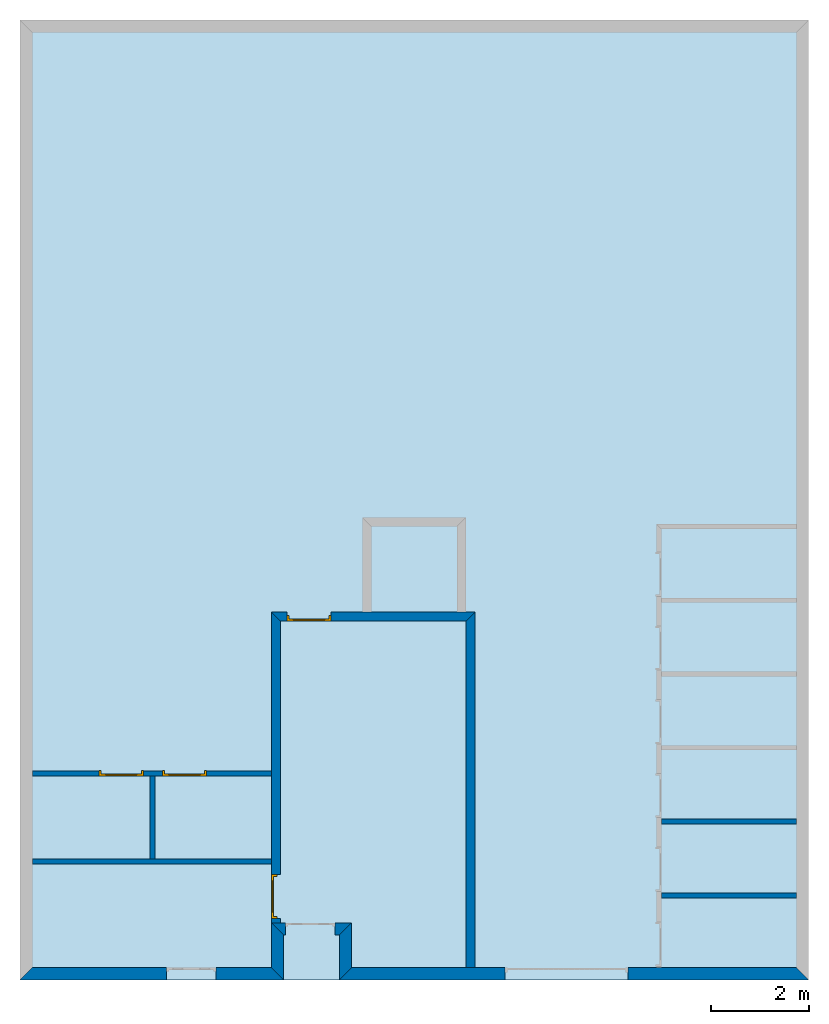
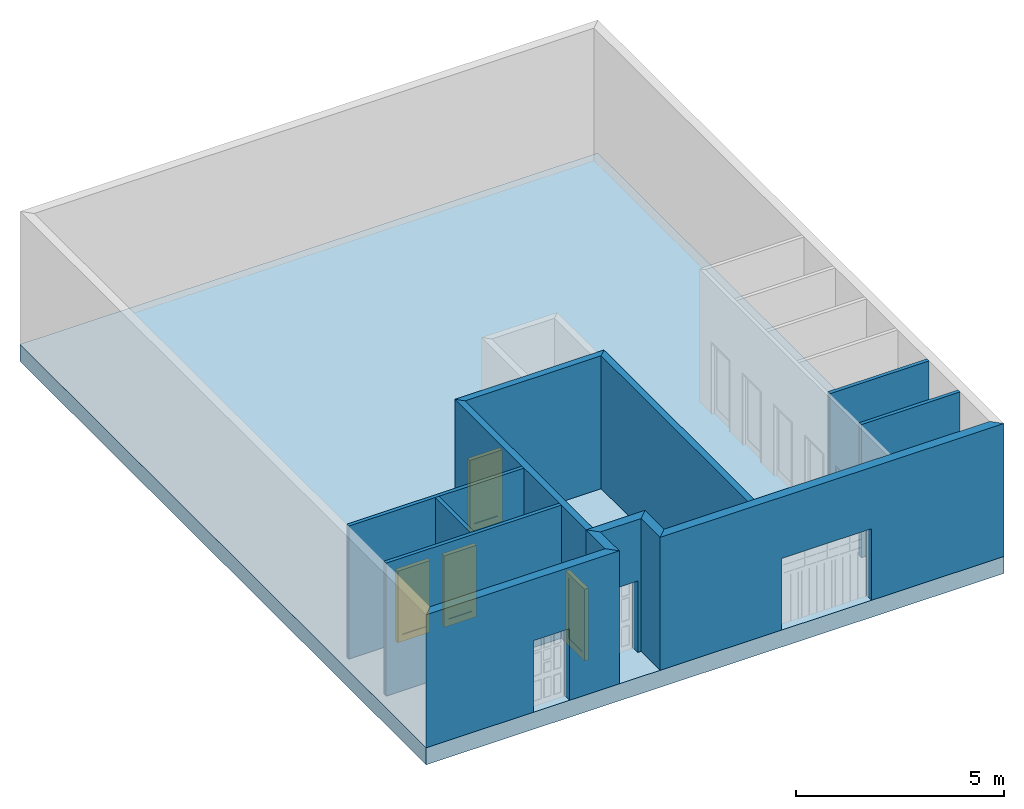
# One storey, part 1 of 5: 13 walls, 4 doors, 1 slab, 7 openings.
"""IFC2X3 building model written with IfcOpenShell, lengths in metres."""

import ifcopenshell
import ifcopenshell.guid

model = None  # the IFC model being written
_history = None  # IfcOwnerHistory: only IFC2X3 demands one
_inside = {}  # id of a spatial element -> (the spatial element, [elements in it])
_under = {}  # id of a project, library or spatial element -> (it, [spatial elements below it])
_declared = {}  # id of a project -> (the project, [libraries it declares])
_typed = {}  # id of a type object -> (the type object, [elements of that type])
_made_of = {}  # id of a material, layer set ... -> (it, [elements and type objects made of it])


def new_model(schema):
    """Start an empty IFC model of exactly this schema.

    Asked for "IFC4X3", IfcOpenShell would pick the latest addendum, in which some entities
    have other attributes; the version numbers below select the first issue.
    IFC2X3 requires an IfcOwnerHistory on every rooted entity: one is made here for all.
    """
    global model, _history
    if schema == "IFC4X3":
        model = ifcopenshell.file(schema_version=(4, 3, 0, 0))
    else:
        model = ifcopenshell.file(schema=schema)
    _inside.clear()
    _under.clear()
    _declared.clear()
    _typed.clear()
    _made_of.clear()
    _history = None
    if model.schema == "IFC2X3":
        org = make("IfcOrganization", Name="unknown")
        user = make(
            "IfcPersonAndOrganization",
            ThePerson=make("IfcPerson", FamilyName="unknown"),
            TheOrganization=org,
        )
        app = make(
            "IfcApplication",
            ApplicationDeveloper=org,
            Version="unknown",
            ApplicationFullName="unknown",
            ApplicationIdentifier="unknown",
        )
        _history = make(
            "IfcOwnerHistory",
            OwningUser=user,
            OwningApplication=app,
            ChangeAction="ADDED",
            CreationDate=0,
        )
    return model


def make(cls, **values):
    """One entity of the class cls with the attributes given. An attribute that is None is left unset."""
    return model.create_entity(
        cls, **{name: value for name, value in values.items() if value is not None}
    )


def entity(cls, *values):
    """Any entity or typed value of the class cls, its attributes in the order of the schema. None: left unset."""
    e = model.create_entity(cls)
    for i, value in enumerate(values):
        if value is not None:
            e[i] = value
    return e


def rooted(cls, **values):
    """An entity with a GlobalId (a new one), such as an element, a storey or a relation."""
    return make(cls, GlobalId=ifcopenshell.guid.new(), OwnerHistory=_history, **values)


def si_unit(unit_type, name, prefix=None):
    """IfcSIUnit, for example si_unit("LENGTHUNIT", "METRE", prefix="MILLI")."""
    return make("IfcSIUnit", UnitType=unit_type, Prefix=prefix, Name=name)


def converted_unit(unit_type, name, factor, base, dimensions=None, offset=None):
    """IfcConversionBasedUnit, such as the inch: factor (a typed value) times the base unit."""
    return make(
        "IfcConversionBasedUnit"
        if offset is None
        else "IfcConversionBasedUnitWithOffset",
        ConversionOffset=offset,
        Dimensions=None
        if dimensions is None
        else entity("IfcDimensionalExponents", *dimensions),
        UnitType=unit_type,
        Name=name,
        ConversionFactor=make(
            "IfcMeasureWithUnit", ValueComponent=factor, UnitComponent=base
        ),
    )


def assignment(units):
    """IfcUnitAssignment: the units of a project."""
    return None if units is None else make("IfcUnitAssignment", Units=units)


def point(xyz):
    """IfcCartesianPoint."""
    return None if xyz is None else make("IfcCartesianPoint", Coordinates=xyz)


def direction(xyz):
    """IfcDirection."""
    return None if xyz is None else make("IfcDirection", DirectionRatios=xyz)


def frame(location, z_axis=None, x_axis=None):
    """IfcAxis2Placement3D, a coordinate frame: its origin and axes. An axis left out is left unset."""
    return make(
        "IfcAxis2Placement3D",
        Location=point(location),
        Axis=direction(z_axis),
        RefDirection=direction(x_axis),
    )


def frame_2d(location, x_axis=None):
    """IfcAxis2Placement2D, a coordinate frame in the plane: its origin and x axis."""
    return make(
        "IfcAxis2Placement2D", Location=point(location), RefDirection=direction(x_axis)
    )


def origin_with_axes():
    """The frame at (0, 0, 0) with the z axis (0, 0, 1) and the x axis (1, 0, 0) written out."""
    return frame((0.0, 0.0, 0.0), z_axis=(0.0, 0.0, 1.0), x_axis=(1.0, 0.0, 0.0))


def place(relative_to, where):
    """IfcLocalPlacement: puts the frame where relative to a parent placement (None: the world)."""
    return make(
        "IfcLocalPlacement", PlacementRelTo=relative_to, RelativePlacement=where
    )


def context(
    kind, dimensions, precision=None, world=None, true_north=None, identifier=None
):
    """IfcGeometricRepresentationContext, for example the 3D "Model" context."""
    return make(
        "IfcGeometricRepresentationContext",
        ContextIdentifier=identifier,
        ContextType=kind,
        CoordinateSpaceDimension=dimensions,
        Precision=precision,
        WorldCoordinateSystem=world,
        TrueNorth=true_north,
    )


def project(units=None, contexts=None):
    """IfcProject with its units and contexts."""
    return rooted(
        "IfcProject",
        Name="project",
        RepresentationContexts=contexts,
        UnitsInContext=assignment(units),
    )


def spatial(cls, under=None, at=None, **own):
    """A site, building, storey or space (cls), placed at a placement, below another one or the project."""
    s = rooted(cls, ObjectPlacement=at, **own)
    if under is not None:
        _under.setdefault(under.id(), (under, []))[1].append(s)
    return s


def polyline(points):
    """IfcPolyline through the points."""
    return make("IfcPolyline", Points=[point(p) for p in points])


def profile(cls, at=None, kind="AREA", **sizes):
    """A parametric profile (cls). Its sizes go by their IFC names, for example OverallWidth=200.0."""
    return make(cls, ProfileType=kind, Position=at, **sizes)


def rectangle(**sizes):
    """IfcRectangleProfileDef."""
    return profile("IfcRectangleProfileDef", **sizes)


def outline(outer, holes=None, kind="AREA"):
    """IfcArbitraryClosedProfileDef: a profile drawn as a closed curve; with holes, ...WithVoids."""
    if holes is None:
        return make("IfcArbitraryClosedProfileDef", ProfileType=kind, OuterCurve=outer)
    return make(
        "IfcArbitraryProfileDefWithVoids",
        ProfileType=kind,
        OuterCurve=outer,
        InnerCurves=holes,
    )


def extrude(swept, where, along, depth):
    """IfcExtrudedAreaSolid: the profile swept, set in the frame where, extruded along a direction by depth."""
    return make(
        "IfcExtrudedAreaSolid",
        SweptArea=swept,
        Position=where,
        ExtrudedDirection=direction(along),
        Depth=depth,
    )


def faces_of(points, faces, orient=None, outer=None):
    """IfcFace entities. A face is a list of loops; a loop is a list of indices into points, from 0.

    orient and outer hold one flag for each loop. By default every Orientation is true, the
    first loop of a face is its IfcFaceOuterBound and the others are IfcFaceBound.
    """
    made = []
    for i, loops in enumerate(faces):
        bounds = []
        for j, loop in enumerate(loops):
            is_outer = j == 0 if outer is None else outer[i][j]
            bounds.append(
                make(
                    "IfcFaceOuterBound" if is_outer else "IfcFaceBound",
                    Bound=make("IfcPolyLoop", Polygon=[points[k] for k in loop]),
                    Orientation=True if orient is None else orient[i][j],
                )
            )
        made.append(make("IfcFace", Bounds=bounds))
    return made


def faceted_brep(points, faces, orient=None, outer=None, voids=None):
    """IfcFacetedBrep: a solid bounded by flat faces; with voids (closed shells), ...WithVoids."""
    shared = [point(p) for p in points]
    hull = make("IfcClosedShell", CfsFaces=faces_of(shared, faces, orient, outer))
    if voids is None:
        return make("IfcFacetedBrep", Outer=hull)
    return make(
        "IfcFacetedBrepWithVoids",
        Outer=hull,
        Voids=[
            make(cls, CfsFaces=faces_of(shared, fs, o, b)) for cls, fs, o, b in voids
        ],
    )


def shape(context_of_items, identifier, shape_type, items):
    """IfcShapeRepresentation: the items that make up one representation, for example the "Body"."""
    return make(
        "IfcShapeRepresentation",
        ContextOfItems=context_of_items,
        RepresentationIdentifier=identifier,
        RepresentationType=shape_type,
        Items=items,
    )


def source(mapping_origin, context_of_items, identifier, shape_type, items):
    """IfcRepresentationMap: a shape defined once, which mapped items show again and again."""
    return make(
        "IfcRepresentationMap",
        MappingOrigin=mapping_origin,
        MappedRepresentation=shape(context_of_items, identifier, shape_type, items),
    )


def transform(
    local_origin,
    x_axis=None,
    y_axis=None,
    z_axis=None,
    scale=None,
    scale2=None,
    scale3=None,
    uniform=True,
):
    """IfcCartesianTransformationOperator3D, or its non-uniform kind. x_axis, y_axis, z_axis: its Axis1, 2, 3."""
    if uniform:
        return make(
            "IfcCartesianTransformationOperator3D",
            Axis1=direction(x_axis),
            Axis2=direction(y_axis),
            LocalOrigin=point(local_origin),
            Scale=scale,
            Axis3=direction(z_axis),
        )
    return make(
        "IfcCartesianTransformationOperator3DnonUniform",
        Axis1=direction(x_axis),
        Axis2=direction(y_axis),
        LocalOrigin=point(local_origin),
        Scale=scale,
        Axis3=direction(z_axis),
        Scale2=scale2,
        Scale3=scale3,
    )


def mapped(mapping_source, mapping_target):
    """IfcMappedItem: shows the shape of a source again, moved by a transform."""
    return make(
        "IfcMappedItem", MappingSource=mapping_source, MappingTarget=mapping_target
    )


def material(Name=None, Category=None):
    """IfcMaterial."""
    return make("IfcMaterial", Name=Name, Category=Category)


def layer(
    of_material, thickness, ventilated=None, Name=None, Category=None, Priority=None
):
    """IfcMaterialLayer: one layer of a wall or slab, of a material (None: an air gap)."""
    return make(
        "IfcMaterialLayer",
        Material=of_material,
        LayerThickness=thickness,
        IsVentilated=ventilated,
        Name=Name,
        Category=Category,
        Priority=Priority,
    )


def layer_set(layers, Name=None):
    """IfcMaterialLayerSet."""
    return make("IfcMaterialLayerSet", MaterialLayers=layers, LayerSetName=Name)


def layer_usage(for_layer_set, set_direction, sense, offset, extent=None):
    """IfcMaterialLayerSetUsage: how a layer set lies in its element."""
    return make(
        "IfcMaterialLayerSetUsage",
        ForLayerSet=for_layer_set,
        LayerSetDirection=set_direction,
        DirectionSense=sense,
        OffsetFromReferenceLine=offset,
        ReferenceExtent=extent,
    )


def made_of(thing, what):
    """Note that an element or type object is made of a material, layer set ...; save() writes the relation."""
    if what is not None:
        _made_of.setdefault(what.id(), (what, []))[1].append(thing)
    return thing


def type_object(cls, material=None, **own):
    """A type object (cls), such as IfcWallType, which elements share."""
    return made_of(rooted(cls, **own), material)


def element(
    cls,
    number,
    at=None,
    inside=None,
    cuts=None,
    type_object=None,
    material=None,
    context=None,
    identifier="Body",
    shape_type=None,
    held_by="IfcProductDefinitionShape",
    body=None,
    shapes=None,
    **own,
):
    """One element of the class cls, such as IfcWall. Its Tag is "e" and its number.

    at: its placement. inside: the storey or other place that contains it. cuts: it is an
    opening in that element (IfcRelVoidsElement). A single representation is given by context,
    identifier, shape_type and body (its items); several are given by shapes. held_by: the class
    of the entity that holds the representations. save() writes the other relations.
    """
    e = rooted(cls, Tag="e%d" % number, ObjectPlacement=at, **own)
    if body is not None:
        shapes = [shape(context, identifier, shape_type, body)]
    if shapes is not None:
        e.Representation = make(held_by, Representations=shapes)
    if inside is not None:
        _inside.setdefault(inside.id(), (inside, []))[1].append(e)
    if cuts is not None:
        rooted(
            "IfcRelVoidsElement", RelatingBuildingElement=cuts, RelatedOpeningElement=e
        )
    if type_object is not None:
        _typed.setdefault(type_object.id(), (type_object, []))[1].append(e)
    return made_of(e, material)


def fill(opening, filler):
    """IfcRelFillsElement: the door or window that sits in an opening."""
    return rooted(
        "IfcRelFillsElement",
        RelatingOpeningElement=opening,
        RelatedBuildingElement=filler,
    )


def aggregate(whole, parts):
    """IfcRelAggregates: a whole, such as a stair, and the parts it consists of."""
    return rooted("IfcRelAggregates", RelatingObject=whole, RelatedObjects=parts)


def save(model, path):
    """Write the relations noted so far, then the file.

    IfcRelAggregates (storeys below a building ...), IfcRelContainedInSpatialStructure (elements
    in a storey), IfcRelDefinesByType, IfcRelAssociatesMaterial and IfcRelDeclares: one each for
    every whole, place, type object, material and project.
    """
    for whole, parts in _under.values():
        aggregate(whole, parts)
    for where, things in _inside.values():
        rooted(
            "IfcRelContainedInSpatialStructure",
            RelatedElements=things,
            RelatingStructure=where,
        )
    for kind, things in _typed.values():
        rooted("IfcRelDefinesByType", RelatedObjects=things, RelatingType=kind)
    for what, things in _made_of.values():
        rooted("IfcRelAssociatesMaterial", RelatedObjects=things, RelatingMaterial=what)
    for by, libraries in _declared.values():
        rooted("IfcRelDeclares", RelatingContext=by, RelatedDefinitions=libraries)
    model.write(path)


model = new_model("IFC2X3")

# Units and contexts
context_of_model = context(None, 3, precision=1e-05, world=origin_with_axes(), true_north=direction((6.123234e-17, 1.0)))
plan_context = context("Plan", 3, precision=1e-05, world=origin_with_axes(), true_north=direction((6.123234e-17, 1.0)))
model_context = context("Model", 3, precision=1e-05, world=origin_with_axes(), true_north=direction((6.123234e-17, 1.0)))
ifc_project = project(units=[si_unit("LENGTHUNIT", "METRE"), si_unit("AREAUNIT", "SQUARE_METRE"), si_unit("VOLUMEUNIT", "CUBIC_METRE"), converted_unit("PLANEANGLEUNIT", "DEGREE", entity("IfcPlaneAngleMeasure", 0.017453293), si_unit("PLANEANGLEUNIT", "RADIAN"), dimensions=[0, 0, 0, 0, 0, 0, 0]), si_unit("SOLIDANGLEUNIT", "STERADIAN"), si_unit("MASSUNIT", "GRAM"), si_unit("TIMEUNIT", "SECOND"), si_unit("THERMODYNAMICTEMPERATUREUNIT", "DEGREE_CELSIUS"), si_unit("LUMINOUSINTENSITYUNIT", "LUMEN")], contexts=[context_of_model, plan_context, model_context])

# Site, building, storey
site_placement = place(None, origin_with_axes())
site = spatial("IfcSite", under=ifc_project, at=site_placement, Name="Por defecto Sitio", CompositionType="ELEMENT")
building_placement = place(site_placement, origin_with_axes())
building = spatial("IfcBuilding", under=site, at=building_placement, Name="Por defecto Edificio", CompositionType="ELEMENT")
storey_placement = place(building_placement, origin_with_axes())
storey = spatial("IfcBuildingStorey", under=building, at=storey_placement, Name="Planta Baja", CompositionType="ELEMENT", Elevation=0.0)

# Slab
ifc_material_1 = material(Name="Hormigón en masa")
ifc_layer_1 = layer(ifc_material_1, 0.5, ventilated="UNKNOWN")
ifc_layer_set_1 = layer_set([ifc_layer_1], Name="Hormigón en masa")
ifc_layer_usage_1 = layer_usage(ifc_layer_set_1, "AXIS3", "NEGATIVE", 0.5)
slab_placement = place(storey_placement, frame((0.0, 0.0, -0.5), z_axis=(0.0, 0.0, 1.0), x_axis=(1.0, 0.0, 0.0)))
element("IfcSlab", 1, at=slab_placement, inside=storey, material=ifc_layer_usage_1, Name="Forj-001", PredefinedType="FLOOR", context=context_of_model, shape_type="SweptSolid", body=[
    extrude(outline(polyline([(0.0, 0.0), (16.03417, 0.0), (16.03417, 19.52), (0.0, 19.52), (0.0, 0.0)])), origin_with_axes(), (0.0, 0.0, 1.0), 0.5),
])

# Wall, opening
ifc_material_2 = material(Name="Ladrillo común")
ifc_layer_2 = layer(ifc_material_2, 0.25, ventilated="UNKNOWN")
ifc_layer_set_2 = layer_set([ifc_layer_2], Name="Ladrillo común")
ifc_layer_usage_2 = layer_usage(ifc_layer_set_2, "AXIS2", "POSITIVE", 0.0)
wall_type_1 = type_object("IfcWallType", Name="Ladrillo común", PredefinedType="NOTDEFINED")
wall_1_placement = place(storey_placement, frame((5.3619878, 0.91290992, 0.0), z_axis=(0.0, 0.0, 1.0), x_axis=(1.0, 0.0, 0.0)))
wall_1 = element("IfcWallStandardCase", 2, at=wall_1_placement, inside=storey, type_object=wall_type_1, material=ifc_layer_usage_2, Name="Muro-006", context=context_of_model, shape_type="SweptSolid", body=[
    extrude(outline(polyline([(0.0, 0.0), (1.1322176, 0.0), (1.3822176, 0.25), (-0.25, 0.25), (0.0, 0.0)])), origin_with_axes(), (0.0, 0.0, 1.0), 3.9),
])
opening_1_placement = place(wall_1_placement, frame((0.54, 0.0, 0.0), z_axis=(0.0, 0.0, 1.0), x_axis=(1.0, 0.0, 0.0)))
element("IfcOpeningElement", 3, at=opening_1_placement, cuts=wall_1, ObjectType="Opening", context=model_context, shape_type="SweptSolid", body=[
    extrude(rectangle(XDim=1.0, YDim=2.1, at=frame_2d((0.0, 1.05), x_axis=(-1.0, 0.0))), frame((0.0, 0.0, 0.0), z_axis=(0.0, 1.0, 0.0), x_axis=(-1.0, 0.0, 0.0)), (0.0, 0.0, 1.0), 0.25),
])

# Wall
ifc_layer_usage_3 = layer_usage(ifc_layer_set_2, "AXIS2", "NEGATIVE", 0.0)
wall_2_placement = place(storey_placement, frame((6.4942054, 0.0, 0.0), z_axis=(0.0, 0.0, 1.0), x_axis=(0.0, 1.0, 0.0)))
element("IfcWallStandardCase", 4, at=wall_2_placement, inside=storey, type_object=wall_type_1, material=ifc_layer_usage_3, Name="Muro-008", context=context_of_model, shape_type="SweptSolid", body=[
    extrude(outline(polyline([(0.25, -0.25), (1.1629099, -0.25), (0.91290992, 0.0), (0.0, 0.0), (0.25, -0.25)])), origin_with_axes(), (0.0, 0.0, 1.0), 3.9),
])

# Wall, opening
ifc_layer_usage_4 = layer_usage(ifc_layer_set_2, "AXIS2", "NEGATIVE", 0.0)
wall_3_placement = place(storey_placement, frame((5.3619878, 0.0, 0.0), z_axis=(0.0, 0.0, 1.0), x_axis=(-1.0, 0.0, 0.0)))
wall_3 = element("IfcWallStandardCase", 5, at=wall_3_placement, inside=storey, type_object=wall_type_1, material=ifc_layer_usage_4, Name="Muro-010", context=context_of_model, shape_type="SweptSolid", body=[
    extrude(outline(polyline([(0.25, -0.25), (5.1119878, -0.25), (5.3619878, 0.0), (0.0, 0.0), (0.25, -0.25)])), origin_with_axes(), (0.0, 0.0, 1.0), 3.9),
])
opening_2_placement = place(wall_3_placement, frame((1.8805093, -0.25, 0.0), z_axis=(0.0, 0.0, 1.0), x_axis=(1.0, 0.0, 0.0)))
element("IfcOpeningElement", 6, at=opening_2_placement, cuts=wall_3, ObjectType="Opening", context=model_context, shape_type="SweptSolid", body=[
    extrude(rectangle(XDim=1.0, YDim=2.1, at=frame_2d((0.0, 1.05), x_axis=(-1.0, 0.0))), frame((0.0, 0.0, 0.0), z_axis=(0.0, 1.0, 0.0), x_axis=(-1.0, 0.0, 0.0)), (0.0, 0.0, 1.0), 0.25),
])

ifc_layer_usage_5 = layer_usage(ifc_layer_set_2, "AXIS2", "NEGATIVE", 0.0)
wall_4_placement = place(storey_placement, frame((16.03417, -1.1368684e-13, 0.0), z_axis=(0.0, 0.0, 1.0), x_axis=(-1.0, 1.1916904e-14, 0.0)))
wall_4 = element("IfcWallStandardCase", 7, at=wall_4_placement, inside=storey, type_object=wall_type_1, material=ifc_layer_usage_5, Name="Muro-011", context=context_of_model, shape_type="SweptSolid", body=[
    extrude(outline(polyline([(0.25, -0.25), (9.2899644, -0.25), (9.5399644, 0.0), (0.0, 0.0), (0.25, -0.25)])), origin_with_axes(), (0.0, 0.0, 1.0), 3.9),
])
opening_3_placement = place(wall_4_placement, frame((4.9236983, -0.25, 0.0), z_axis=(0.0, 0.0, 1.0), x_axis=(1.0, 0.0, 0.0)))
element("IfcOpeningElement", 8, at=opening_3_placement, cuts=wall_4, ObjectType="Opening", context=model_context, shape_type="SweptSolid", body=[
    extrude(rectangle(XDim=2.5, YDim=2.1, at=frame_2d((0.0, 1.05), x_axis=(-1.0, 0.0))), frame((0.0, 0.0, 0.0), z_axis=(0.0, 1.0, 0.0), x_axis=(-1.0, 0.0, 0.0)), (0.0, 0.0, 1.0), 0.25),
])

# Wall
ifc_layer_usage_6 = layer_usage(ifc_layer_set_2, "AXIS2", "NEGATIVE", 0.0)
wall_5_placement = place(storey_placement, frame((5.3619878, 0.91290992, 0.0), z_axis=(0.0, 0.0, 1.0), x_axis=(0.0, -1.0, 0.0)))
element("IfcWallStandardCase", 9, at=wall_5_placement, inside=storey, type_object=wall_type_1, material=ifc_layer_usage_6, Name="Muro-008", context=context_of_model, shape_type="SweptSolid", body=[
    extrude(outline(polyline([(-0.25, -0.25), (0.66290992, -0.25), (0.91290992, 0.0), (0.0, 0.0), (-0.25, -0.25)])), origin_with_axes(), (0.0, 0.0, 1.0), 3.9),
])

# Wall, opening, door
ifc_layer_3 = layer(ifc_material_2, 0.18, ventilated="UNKNOWN")
ifc_layer_set_3 = layer_set([ifc_layer_3], Name="Ladrillo común")
ifc_layer_usage_7 = layer_usage(ifc_layer_set_3, "AXIS2", "NEGATIVE", 0.0)
wall_type_2 = type_object("IfcWallType", Name="Ladrillo común", PredefinedType="NOTDEFINED")
wall_6_placement = place(storey_placement, frame((5.292164, 7.2976562, 0.0), z_axis=(0.0, 0.0, 1.0), x_axis=(-1.5636061e-14, -1.0, 0.0)))
wall_6 = element("IfcWallStandardCase", 10, at=wall_6_placement, inside=storey, type_object=wall_type_2, material=ifc_layer_usage_7, Name="Muro-009", context=context_of_model, shape_type="SweptSolid", body=[
    extrude(outline(polyline([(-0.18, -0.18), (6.1347463, -0.18), (6.1347463, 0.0), (0.0, 0.0), (-0.18, -0.18)])), origin_with_axes(), (0.0, 0.0, 1.0), 3.9),
])
opening_4_placement = place(wall_6_placement, frame((5.6014999, -0.18, 0.0), z_axis=(0.0, 0.0, 1.0), x_axis=(1.0, 0.0, 0.0)))
opening_4 = element("IfcOpeningElement", 11, at=opening_4_placement, cuts=wall_6, ObjectType="Opening", context=model_context, shape_type="SweptSolid", body=[
    extrude(rectangle(XDim=0.9, YDim=2.1, at=frame_2d((2.7755576e-15, 1.05), x_axis=(-1.0, 0.0))), frame((0.0, 0.0, 0.0), z_axis=(0.0, 1.0, 0.0), x_axis=(-1.0, 0.0, 0.0)), (0.0, 0.0, 1.0), 0.18),
])
door_style_1 = type_object("IfcDoorStyle", Name="P1 12", ConstructionType="NOTDEFINED", OperationType="SINGLE_SWING_RIGHT", ParameterTakesPrecedence=False, Sizeable=False)
shared_shape_1 = source(origin_with_axes(), model_context, "Body", "Brep", [
    faceted_brep([(0.04, 0.075, -2.4492936e-18), (0.04, 0.075, 2.06), (0.04, -9.3258734e-14, 2.06), (0.04, -9.3258734e-14, -7.0417191e-18), (0.028, 0.075, 2.06), (0.028, 0.075, -2.4492936e-18), (0.028, 0.115, 2.06), (2.220446e-16, 0.115, 2.06), (1.7763568e-15, -9.4146912e-14, 2.06), (0.0, 0.0, 0.0), (2.220446e-16, 0.115, 3.3744595e-33), (0.028, 0.115, 3.2707143e-33)], [[[0, 1, 2, 3]], [[4, 1, 0, 5]], [[4, 6, 7, 8, 2, 1]], [[9, 3, 2, 8]], [[5, 0, 3, 9, 10, 11]], [[6, 4, 5, 11]], [[6, 11, 10, 7]], [[8, 7, 10, 9]]]),
    faceted_brep([(0.872, 0.075, 2.06), (0.86, 0.075, 2.06), (0.86, -8.0824236e-14, 2.06), (0.9, -7.9936058e-14, 2.06), (0.9, 0.115, 2.06), (0.872, 0.115, 2.06), (0.872, 0.075, -2.4492936e-18), (0.86, 0.075, -2.4492936e-18), (0.86, -8.0824236e-14, -7.0417191e-18), (0.9, -7.9936058e-14, -7.0417191e-18), (0.9, 0.115, -3.3744595e-33), (0.872, 0.115, -3.1644931e-33)], [[[0, 1, 2, 3, 4, 5]], [[1, 0, 6, 7]], [[1, 7, 8, 2]], [[8, 9, 3, 2]], [[9, 10, 4, 3]], [[11, 5, 4, 10]], [[0, 5, 11, 6]], [[6, 11, 10, 9, 8, 7]]]),
    faceted_brep([(0.028, 0.115, 2.072), (0.028, 0.115, 2.06), (2.220446e-16, 0.115, 2.06), (2.220446e-16, 0.115, 2.1), (0.9, 0.115, 2.1), (0.9, 0.115, 2.06), (0.872, 0.115, 2.06), (0.872, 0.115, 2.072), (0.028, 0.075, 2.072), (0.028, 0.075, 2.06), (0.04, 0.075, 2.06), (0.04, -9.3258734e-14, 2.06), (1.7763568e-15, -9.4146912e-14, 2.06), (1.7763568e-15, -9.4146912e-14, 2.1), (0.9, -7.9936058e-14, 2.1), (0.9, -7.9936058e-14, 2.06), (0.872, 0.075, 2.06), (0.86, -8.0824236e-14, 2.06), (0.86, 0.075, 2.06), (0.872, 0.075, 2.072)], [[[0, 1, 2, 3, 4, 5, 6, 7]], [[1, 0, 8, 9]], [[9, 10, 11, 12, 2, 1]], [[13, 3, 2, 12]], [[14, 4, 3, 13]], [[15, 5, 4, 14]], [[16, 6, 5, 15, 17, 18]], [[7, 6, 16, 19]], [[0, 7, 19, 8]], [[16, 18, 10, 9, 8, 19]], [[10, 18, 17, 11]], [[14, 13, 12, 11, 17, 15]]]),
    faceted_brep([(0.872, 0.115, 0.2), (0.872, 0.075, 0.2), (0.772, 0.075, 0.2), (0.772, 0.115, 0.2), (0.872, 0.115, 1.972), (0.872, 0.075, 1.972), (0.772, 0.075, 1.972), (0.772, 0.115, 1.972)], [[[0, 1, 2, 3]], [[4, 5, 1, 0]], [[1, 5, 6, 2]], [[3, 2, 6, 7]], [[0, 3, 7, 4]], [[7, 6, 5, 4]]]),
    faceted_brep([(0.028, 0.115, 0.2), (0.028, 0.075, 0.2), (0.028, 0.075, 1.972), (0.028, 0.115, 1.972), (0.128, 0.115, 0.2), (0.128, 0.075, 0.2), (0.128, 0.075, 1.972), (0.128, 0.115, 1.972)], [[[0, 1, 2, 3]], [[4, 5, 1, 0]], [[1, 5, 6, 2]], [[3, 2, 6, 7]], [[0, 3, 7, 4]], [[7, 6, 5, 4]]]),
    faceted_brep([(0.872, 0.115, -3.1644931e-33), (0.872, 0.075, -2.4492936e-18), (0.028, 0.075, -2.4492936e-18), (0.028, 0.115, 3.1644931e-33), (0.872, 0.115, 0.2), (0.872, 0.075, 0.2), (0.772, 0.075, 0.2), (0.128, 0.075, 0.2), (0.028, 0.075, 0.2), (0.028, 0.115, 0.2), (0.128, 0.115, 0.2), (0.772, 0.115, 0.2)], [[[0, 1, 2, 3]], [[4, 5, 1, 0]], [[1, 5, 6, 7, 8, 2]], [[3, 2, 8, 9]], [[0, 3, 9, 10, 11, 4]], [[11, 6, 5, 4]], [[10, 7, 6, 11]], [[9, 8, 7, 10]]]),
    faceted_brep([(0.872, 0.115, 2.072), (0.872, 0.075, 2.072), (0.872, 0.075, 1.972), (0.872, 0.115, 1.972), (0.028, 0.115, 2.072), (0.028, 0.075, 2.072), (0.028, 0.075, 1.972), (0.128, 0.075, 1.972), (0.772, 0.075, 1.972), (0.772, 0.115, 1.972), (0.128, 0.115, 1.972), (0.028, 0.115, 1.972)], [[[0, 1, 2, 3]], [[4, 5, 1, 0]], [[1, 5, 6, 7, 8, 2]], [[3, 2, 8, 9]], [[0, 3, 9, 10, 11, 4]], [[11, 6, 5, 4]], [[10, 7, 6, 11]], [[9, 8, 7, 10]]]),
    faceted_brep([(0.772, 0.101, 0.2), (0.772, 0.089, 0.2), (0.128, 0.089, 0.2), (0.128, 0.101, 0.2), (0.772, 0.101, 1.972), (0.772, 0.089, 1.972), (0.128, 0.089, 1.972), (0.128, 0.101, 1.972)], [[[0, 1, 2, 3]], [[4, 5, 1, 0]], [[1, 5, 6, 2]], [[3, 2, 6, 7]], [[0, 3, 7, 4]], [[7, 6, 5, 4]]]),
])
door_1_placement = place(opening_4_placement, frame((0.45, 0.115, 0.0), z_axis=(0.0, 0.0, 1.0), x_axis=(-1.0, 0.0, 0.0)))
door_1 = element("IfcDoor", 12, at=door_1_placement, inside=storey, type_object=door_style_1, Name="P05", OverallHeight=2.1, OverallWidth=0.9, context=model_context, shape_type="MappedRepresentation", body=[
    mapped(shared_shape_1, transform((0.0, 0.0, 0.0), scale=1.0)),
])
fill(opening_4, door_1)

ifc_layer_usage_8 = layer_usage(ifc_layer_set_3, "AXIS2", "POSITIVE", 0.0)
wall_7_placement = place(storey_placement, frame((5.292164, 7.2976562, 0.0), z_axis=(0.0, 0.0, 1.0), x_axis=(1.0, 0.0, 0.0)))
wall_7 = element("IfcWallStandardCase", 13, at=wall_7_placement, inside=storey, type_object=wall_type_2, material=ifc_layer_usage_8, Name="Muro-009", context=context_of_model, shape_type="SweptSolid", body=[
    extrude(outline(polyline([(0.0, 0.0), (3.7770059, 0.0), (3.9570059, 0.18), (-0.18, 0.18), (0.0, 0.0)])), origin_with_axes(), (0.0, 0.0, 1.0), 3.9),
])
opening_5_placement = place(wall_7_placement, frame((0.58278804, 0.0, 0.0), z_axis=(0.0, 0.0, 1.0), x_axis=(1.0, 0.0, 0.0)))
opening_5 = element("IfcOpeningElement", 14, at=opening_5_placement, cuts=wall_7, ObjectType="Opening", context=model_context, shape_type="SweptSolid", body=[
    extrude(rectangle(XDim=0.9, YDim=2.1, at=frame_2d((7.1054274e-15, 1.05), x_axis=(-1.0, 0.0))), frame((0.0, 0.0, 0.0), z_axis=(0.0, 1.0, 0.0), x_axis=(-1.0, 0.0, 0.0)), (0.0, 0.0, 1.0), 0.18),
])
door_style_2 = type_object("IfcDoorStyle", Name="P1 12", ConstructionType="NOTDEFINED", OperationType="SINGLE_SWING_RIGHT", ParameterTakesPrecedence=False, Sizeable=False)
shared_shape_2 = source(origin_with_axes(), model_context, "Body", "Brep", [
    faceted_brep([(0.04, 0.075, -2.4492936e-18), (0.04, 0.075, 2.06), (0.04, 0.0, 2.06), (0.04, 0.0, -7.0417191e-18), (0.028, 0.075, 2.06), (0.028, 0.075, -2.4492936e-18), (0.028, 0.115, 2.06), (0.0, 0.115, 2.06), (0.0, 0.0, 2.06), (0.0, 0.0, 0.0), (0.0, 0.115, 3.3744595e-33), (0.028, 0.115, 3.2707143e-33)], [[[0, 1, 2, 3]], [[4, 1, 0, 5]], [[4, 6, 7, 8, 2, 1]], [[9, 3, 2, 8]], [[5, 0, 3, 9, 10, 11]], [[6, 4, 5, 11]], [[6, 11, 10, 7]], [[8, 7, 10, 9]]]),
    faceted_brep([(0.872, 0.075, 2.06), (0.86, 0.075, 2.06), (0.86, 0.0, 2.06), (0.9, 0.0, 2.06), (0.9, 0.115, 2.06), (0.872, 0.115, 2.06), (0.872, 0.075, -2.4492936e-18), (0.86, 0.075, -2.4492936e-18), (0.86, 0.0, -7.0417191e-18), (0.9, 0.0, -7.0417191e-18), (0.9, 0.115, -3.3744595e-33), (0.872, 0.115, -3.1644931e-33)], [[[0, 1, 2, 3, 4, 5]], [[1, 0, 6, 7]], [[1, 7, 8, 2]], [[8, 9, 3, 2]], [[9, 10, 4, 3]], [[11, 5, 4, 10]], [[0, 5, 11, 6]], [[6, 11, 10, 9, 8, 7]]]),
    faceted_brep([(0.028, 0.115, 2.072), (0.028, 0.115, 2.06), (0.0, 0.115, 2.06), (0.0, 0.115, 2.1), (0.9, 0.115, 2.1), (0.9, 0.115, 2.06), (0.872, 0.115, 2.06), (0.872, 0.115, 2.072), (0.028, 0.075, 2.072), (0.028, 0.075, 2.06), (0.04, 0.075, 2.06), (0.04, 0.0, 2.06), (0.0, 0.0, 2.06), (0.0, 0.0, 2.1), (0.9, 0.0, 2.1), (0.9, 0.0, 2.06), (0.872, 0.075, 2.06), (0.86, 0.0, 2.06), (0.86, 0.075, 2.06), (0.872, 0.075, 2.072)], [[[0, 1, 2, 3, 4, 5, 6, 7]], [[1, 0, 8, 9]], [[9, 10, 11, 12, 2, 1]], [[13, 3, 2, 12]], [[14, 4, 3, 13]], [[15, 5, 4, 14]], [[16, 6, 5, 15, 17, 18]], [[7, 6, 16, 19]], [[0, 7, 19, 8]], [[16, 18, 10, 9, 8, 19]], [[10, 18, 17, 11]], [[14, 13, 12, 11, 17, 15]]]),
    faceted_brep([(0.872, 0.115, 0.2), (0.872, 0.075, 0.2), (0.772, 0.075, 0.2), (0.772, 0.115, 0.2), (0.872, 0.115, 1.972), (0.872, 0.075, 1.972), (0.772, 0.075, 1.972), (0.772, 0.115, 1.972)], [[[0, 1, 2, 3]], [[4, 5, 1, 0]], [[1, 5, 6, 2]], [[3, 2, 6, 7]], [[0, 3, 7, 4]], [[7, 6, 5, 4]]]),
    faceted_brep([(0.028, 0.115, 0.2), (0.028, 0.075, 0.2), (0.028, 0.075, 1.972), (0.028, 0.115, 1.972), (0.128, 0.115, 0.2), (0.128, 0.075, 0.2), (0.128, 0.075, 1.972), (0.128, 0.115, 1.972)], [[[0, 1, 2, 3]], [[4, 5, 1, 0]], [[1, 5, 6, 2]], [[3, 2, 6, 7]], [[0, 3, 7, 4]], [[7, 6, 5, 4]]]),
    faceted_brep([(0.872, 0.115, -3.1644931e-33), (0.872, 0.075, -2.4492936e-18), (0.028, 0.075, -2.4492936e-18), (0.028, 0.115, 3.1644931e-33), (0.872, 0.115, 0.2), (0.872, 0.075, 0.2), (0.772, 0.075, 0.2), (0.128, 0.075, 0.2), (0.028, 0.075, 0.2), (0.028, 0.115, 0.2), (0.128, 0.115, 0.2), (0.772, 0.115, 0.2)], [[[0, 1, 2, 3]], [[4, 5, 1, 0]], [[1, 5, 6, 7, 8, 2]], [[3, 2, 8, 9]], [[0, 3, 9, 10, 11, 4]], [[11, 6, 5, 4]], [[10, 7, 6, 11]], [[9, 8, 7, 10]]]),
    faceted_brep([(0.872, 0.115, 2.072), (0.872, 0.075, 2.072), (0.872, 0.075, 1.972), (0.872, 0.115, 1.972), (0.028, 0.115, 2.072), (0.028, 0.075, 2.072), (0.028, 0.075, 1.972), (0.128, 0.075, 1.972), (0.772, 0.075, 1.972), (0.772, 0.115, 1.972), (0.128, 0.115, 1.972), (0.028, 0.115, 1.972)], [[[0, 1, 2, 3]], [[4, 5, 1, 0]], [[1, 5, 6, 7, 8, 2]], [[3, 2, 8, 9]], [[0, 3, 9, 10, 11, 4]], [[11, 6, 5, 4]], [[10, 7, 6, 11]], [[9, 8, 7, 10]]]),
    faceted_brep([(0.772, 0.101, 0.2), (0.772, 0.089, 0.2), (0.128, 0.089, 0.2), (0.128, 0.101, 0.2), (0.772, 0.101, 1.972), (0.772, 0.089, 1.972), (0.128, 0.089, 1.972), (0.128, 0.101, 1.972)], [[[0, 1, 2, 3]], [[4, 5, 1, 0]], [[1, 5, 6, 2]], [[3, 2, 6, 7]], [[0, 3, 7, 4]], [[7, 6, 5, 4]]]),
])
door_2_placement = place(opening_5_placement, frame((0.45, 0.115, 0.0), z_axis=(0.0, 0.0, 1.0), x_axis=(-1.0, 0.0, 0.0)))
door_2 = element("IfcDoor", 15, at=door_2_placement, inside=storey, type_object=door_style_2, Name="P08", OverallHeight=2.1, OverallWidth=0.9, context=model_context, shape_type="MappedRepresentation", body=[
    mapped(shared_shape_2, transform((0.0, 0.0, 0.0), scale=1.0)),
])
fill(opening_5, door_2)

# Walls
ifc_layer_usage_9 = layer_usage(ifc_layer_set_3, "AXIS2", "POSITIVE", 0.0)
wall_8_placement = place(storey_placement, frame((9.0691698, 7.2976562, 0.0), z_axis=(0.0, 0.0, 1.0), x_axis=(0.0, -1.0, 0.0)))
element("IfcWallStandardCase", 16, at=wall_8_placement, inside=storey, type_object=wall_type_2, material=ifc_layer_usage_9, Name="Muro-010", context=context_of_model, shape_type="SweptSolid", body=[
    extrude(outline(polyline([(0.0, 0.0), (7.0476562, 0.0), (7.0476562, 0.18), (-0.18, 0.18), (0.0, 0.0)])), origin_with_axes(), (0.0, 0.0, 1.0), 3.9),
])
ifc_layer_4 = layer(ifc_material_2, 0.1, ventilated="UNKNOWN")
ifc_layer_set_4 = layer_set([ifc_layer_4], Name="Ladrillo común")
ifc_layer_usage_10 = layer_usage(ifc_layer_set_4, "AXIS2", "POSITIVE", 0.0)
wall_type_3 = type_object("IfcWallType", Name="Ladrillo común", PredefinedType="NOTDEFINED")
wall_9_placement = place(storey_placement, frame((13.039317, 3.1720269, 0.0), z_axis=(0.0, 0.0, 1.0), x_axis=(1.0, 0.0, 0.0)))
element("IfcWallStandardCase", 17, at=wall_9_placement, inside=storey, type_object=wall_type_3, material=ifc_layer_usage_10, Name="Muro-021", context=context_of_model, shape_type="SweptSolid", body=[
    extrude(outline(polyline([(7.4606987e-14, 0.0), (2.7448525, 0.0), (2.7448525, 0.1), (7.283063e-14, 0.1), (7.4606987e-14, 0.0)])), origin_with_axes(), (0.0, 0.0, 1.0), 3.9),
])
ifc_layer_usage_11 = layer_usage(ifc_layer_set_4, "AXIS2", "NEGATIVE", 0.0)
wall_10_placement = place(storey_placement, frame((5.292164, 2.3553215, 0.0), z_axis=(0.0, 0.0, 1.0), x_axis=(-1.0, 0.0, 0.0)))
element("IfcWallStandardCase", 18, at=wall_10_placement, inside=storey, type_object=wall_type_3, material=ifc_layer_usage_11, Name="Muro-014", context=context_of_model, shape_type="SweptSolid", body=[
    extrude(outline(polyline([(0.18, -0.1), (5.042164, -0.1), (5.042164, 0.0), (0.18, 0.0), (0.18, -0.1)])), origin_with_axes(), (0.0, 0.0, 1.0), 3.9),
])
ifc_layer_usage_12 = layer_usage(ifc_layer_set_4, "AXIS2", "POSITIVE", 0.0)
wall_11_placement = place(storey_placement, frame((13.039317, 1.6720269, 0.0), z_axis=(0.0, 0.0, 1.0), x_axis=(1.0, 0.0, 0.0)))
element("IfcWallStandardCase", 19, at=wall_11_placement, inside=storey, type_object=wall_type_3, material=ifc_layer_usage_12, Name="Muro-020", context=context_of_model, shape_type="SweptSolid", body=[
    extrude(outline(polyline([(9.2370556e-14, 0.0), (2.7448525, 0.0), (2.7448525, 0.1), (9.2370556e-14, 0.1), (9.2370556e-14, 0.0)])), origin_with_axes(), (0.0, 0.0, 1.0), 3.9),
])

# Wall, openings, doors
ifc_layer_usage_13 = layer_usage(ifc_layer_set_4, "AXIS2", "NEGATIVE", 0.0)
wall_12_placement = place(storey_placement, frame((5.292164, 4.1469443, 0.0), z_axis=(0.0, 0.0, 1.0), x_axis=(-1.0, 0.0, 0.0)))
wall_12 = element("IfcWallStandardCase", 20, at=wall_12_placement, inside=storey, type_object=wall_type_3, material=ifc_layer_usage_13, Name="Muro-016", context=context_of_model, shape_type="SweptSolid", body=[
    extrude(outline(polyline([(0.18, -0.1), (5.042164, -0.1), (5.042164, 0.0), (0.18, 0.0), (0.18, -0.1)])), origin_with_axes(), (0.0, 0.0, 1.0), 3.9),
])
opening_6_placement = place(wall_12_placement, frame((1.9460768, -0.1, 0.0), z_axis=(0.0, 0.0, 1.0), x_axis=(1.0, 0.0, 0.0)))
opening_6 = element("IfcOpeningElement", 21, at=opening_6_placement, cuts=wall_12, ObjectType="Opening", context=model_context, shape_type="SweptSolid", body=[
    extrude(rectangle(XDim=0.9, YDim=2.1, at=frame_2d((0.0, 1.05), x_axis=(-1.0, 0.0))), frame((0.0, 0.0, 0.0), z_axis=(0.0, 1.0, 0.0), x_axis=(-1.0, 0.0, 0.0)), (0.0, 0.0, 1.0), 0.1),
])
opening_7_placement = place(wall_12_placement, frame((3.2358727, -0.1, 0.0), z_axis=(0.0, 0.0, 1.0), x_axis=(1.0, 0.0, 0.0)))
opening_7 = element("IfcOpeningElement", 22, at=opening_7_placement, cuts=wall_12, ObjectType="Opening", context=model_context, shape_type="SweptSolid", body=[
    extrude(rectangle(XDim=0.9, YDim=2.1, at=frame_2d((0.0, 1.05), x_axis=(-1.0, 0.0))), frame((0.0, 0.0, 0.0), z_axis=(0.0, 1.0, 0.0), x_axis=(-1.0, 0.0, 0.0)), (0.0, 0.0, 1.0), 0.1),
])
door_style_3 = type_object("IfcDoorStyle", Name="P1 12", ConstructionType="NOTDEFINED", OperationType="SINGLE_SWING_RIGHT", ParameterTakesPrecedence=False, Sizeable=False)
door_3_placement = place(opening_6_placement, frame((-0.45, -0.015, 0.0), z_axis=(0.0, 0.0, 1.0), x_axis=(1.0, 0.0, 0.0)))
door_3 = element("IfcDoor", 23, at=door_3_placement, inside=storey, type_object=door_style_3, Name="P06", OverallHeight=2.1, OverallWidth=0.9, context=model_context, shape_type="MappedRepresentation", body=[
    mapped(shared_shape_1, transform((0.0, 0.0, 0.0), scale=1.0)),
])
fill(opening_6, door_3)
door_style_4 = type_object("IfcDoorStyle", Name="P1 12", ConstructionType="NOTDEFINED", OperationType="SINGLE_SWING_LEFT", ParameterTakesPrecedence=False, Sizeable=False)
shared_shape_3 = source(origin_with_axes(), model_context, "Body", "Brep", [
    faceted_brep([(0.86, 0.075, -3.6739404e-18), (0.86, 0.0, 9.184851e-19), (0.86, 0.0, 2.06), (0.86, 0.075, 2.06), (0.872, 0.075, -3.6739404e-18), (0.872, 0.115, -6.123234e-18), (0.9, 0.115, -6.123234e-18), (0.9, 0.0, 9.184851e-19), (0.9, 0.0, 2.06), (0.872, 0.075, 2.06), (0.9, 0.115, 2.06), (0.872, 0.115, 2.06)], [[[0, 1, 2, 3]], [[4, 5, 6, 7, 1, 0]], [[7, 8, 2, 1]], [[9, 3, 2, 8, 10, 11]], [[9, 4, 0, 3]], [[11, 5, 4, 9]], [[11, 10, 6, 5]], [[8, 7, 6, 10]]]),
    faceted_brep([(0.028, 0.075, 2.06), (0.028, 0.115, 2.06), (0.0, 0.115, 2.06), (0.0, 0.0, 2.06), (0.04, 0.0, 2.06), (0.04, 0.075, 2.06), (0.028, 0.075, -3.6739404e-18), (0.028, 0.115, -6.123234e-18), (0.0, 0.115, -6.123234e-18), (0.0, 0.0, 0.0), (0.04, 0.0, 9.184851e-19), (0.04, 0.075, -3.6739404e-18)], [[[0, 1, 2, 3, 4, 5]], [[0, 6, 7, 1]], [[7, 8, 2, 1]], [[9, 3, 2, 8]], [[10, 4, 3, 9]], [[5, 4, 10, 11]], [[5, 11, 6, 0]], [[6, 11, 10, 9, 8, 7]]]),
    faceted_brep([(0.872, 0.115, 2.072), (0.028, 0.115, 2.072), (0.028, 0.115, 2.06), (0.0, 0.115, 2.06), (0.0, 0.115, 2.1), (0.9, 0.115, 2.1), (0.9, 0.115, 2.06), (0.872, 0.115, 2.06), (0.872, 0.075, 2.072), (0.028, 0.075, 2.072), (0.028, 0.075, 2.06), (0.04, 0.075, 2.06), (0.04, 0.0, 2.06), (0.0, 0.0, 2.06), (0.0, 0.0, 2.1), (0.9, 0.0, 2.1), (0.9, 0.0, 2.06), (0.872, 0.075, 2.06), (0.86, 0.0, 2.06), (0.86, 0.075, 2.06)], [[[0, 1, 2, 3, 4, 5, 6, 7]], [[0, 8, 9, 1]], [[1, 9, 10, 2]], [[10, 11, 12, 13, 3, 2]], [[13, 14, 4, 3]], [[14, 15, 5, 4]], [[15, 16, 6, 5]], [[17, 7, 6, 16, 18, 19]], [[7, 17, 8, 0]], [[10, 9, 8, 17, 19, 11]], [[19, 18, 12, 11]], [[14, 13, 12, 18, 16, 15]]]),
    faceted_brep([(0.028, 0.115, 0.2), (0.128, 0.115, 0.2), (0.128, 0.075, 0.2), (0.028, 0.075, 0.2), (0.028, 0.115, 1.972), (0.128, 0.115, 1.972), (0.128, 0.075, 1.972), (0.028, 0.075, 1.972)], [[[0, 1, 2, 3]], [[0, 4, 5, 1]], [[1, 5, 6, 2]], [[3, 2, 6, 7]], [[4, 0, 3, 7]], [[5, 4, 7, 6]]]),
    faceted_brep([(0.872, 0.115, 0.2), (0.872, 0.115, 1.972), (0.872, 0.075, 1.972), (0.872, 0.075, 0.2), (0.772, 0.115, 0.2), (0.772, 0.115, 1.972), (0.772, 0.075, 1.972), (0.772, 0.075, 0.2)], [[[0, 1, 2, 3]], [[0, 4, 5, 1]], [[1, 5, 6, 2]], [[3, 2, 6, 7]], [[4, 0, 3, 7]], [[5, 4, 7, 6]]]),
    faceted_brep([(0.028, 0.115, -6.123234e-18), (0.872, 0.115, -6.123234e-18), (0.872, 0.075, -3.6739404e-18), (0.028, 0.075, -3.6739404e-18), (0.028, 0.115, 0.2), (0.128, 0.115, 0.2), (0.772, 0.115, 0.2), (0.872, 0.115, 0.2), (0.872, 0.075, 0.2), (0.772, 0.075, 0.2), (0.128, 0.075, 0.2), (0.028, 0.075, 0.2)], [[[0, 1, 2, 3]], [[0, 4, 5, 6, 7, 1]], [[1, 7, 8, 2]], [[3, 2, 8, 9, 10, 11]], [[4, 0, 3, 11]], [[5, 4, 11, 10]], [[6, 5, 10, 9]], [[7, 6, 9, 8]]]),
    faceted_brep([(0.028, 0.115, 2.072), (0.028, 0.115, 1.972), (0.028, 0.075, 1.972), (0.028, 0.075, 2.072), (0.872, 0.115, 2.072), (0.872, 0.115, 1.972), (0.772, 0.115, 1.972), (0.128, 0.115, 1.972), (0.128, 0.075, 1.972), (0.772, 0.075, 1.972), (0.872, 0.075, 1.972), (0.872, 0.075, 2.072)], [[[0, 1, 2, 3]], [[0, 4, 5, 6, 7, 1]], [[1, 7, 8, 2]], [[3, 2, 8, 9, 10, 11]], [[4, 0, 3, 11]], [[5, 4, 11, 10]], [[6, 5, 10, 9]], [[7, 6, 9, 8]]]),
    faceted_brep([(0.128, 0.101, 0.2), (0.772, 0.101, 0.2), (0.772, 0.089, 0.2), (0.128, 0.089, 0.2), (0.128, 0.101, 1.972), (0.772, 0.101, 1.972), (0.772, 0.089, 1.972), (0.128, 0.089, 1.972)], [[[0, 1, 2, 3]], [[0, 4, 5, 1]], [[1, 5, 6, 2]], [[3, 2, 6, 7]], [[4, 0, 3, 7]], [[5, 4, 7, 6]]]),
])
door_4_placement = place(opening_7_placement, frame((-0.45, -0.015, 0.0), z_axis=(0.0, 0.0, 1.0), x_axis=(1.0, 0.0, 0.0)))
door_4 = element("IfcDoor", 24, at=door_4_placement, inside=storey, type_object=door_style_4, Name="P07", OverallHeight=2.1, OverallWidth=0.9, context=model_context, shape_type="MappedRepresentation", body=[
    mapped(shared_shape_3, transform((0.0, 0.0, 0.0), scale=1.0)),
])
fill(opening_7, door_4)

# Wall
ifc_layer_usage_14 = layer_usage(ifc_layer_set_4, "AXIS2", "POSITIVE", 0.0)
wall_13_placement = place(storey_placement, frame((2.747353, 2.3553215, 0.0), z_axis=(0.0, 0.0, 1.0), x_axis=(0.0, 1.0, 0.0)))
element("IfcWallStandardCase", 25, at=wall_13_placement, inside=storey, type_object=wall_type_3, material=ifc_layer_usage_14, Name="Muro-017", context=context_of_model, shape_type="SweptSolid", body=[
    extrude(outline(polyline([(0.1, 0.0), (1.7916227, 0.0), (1.7916227, 0.1), (0.1, 0.1), (0.1, 0.0)])), origin_with_axes(), (0.0, 0.0, 1.0), 3.9),
])

save(model, "model.ifc")
